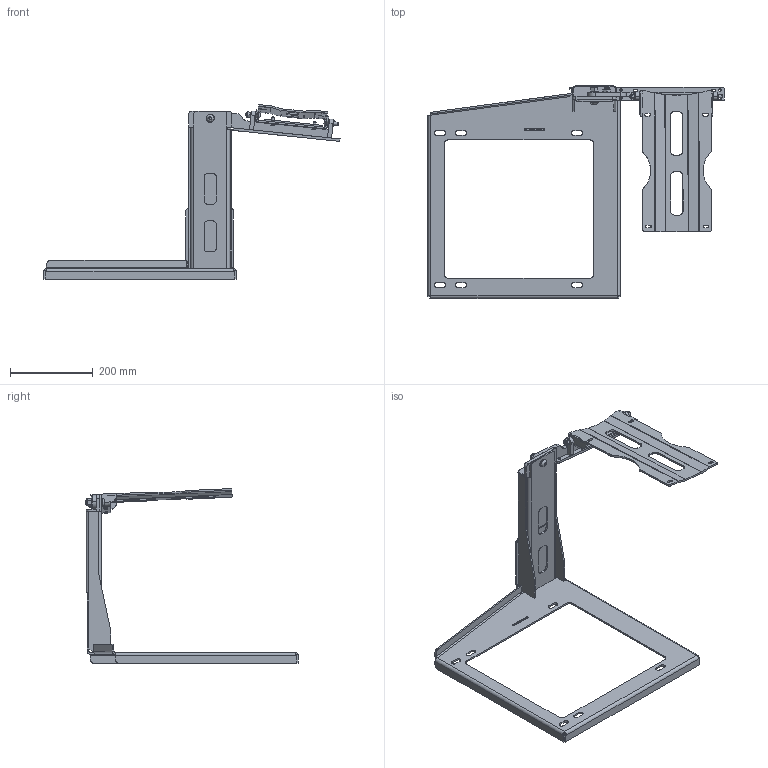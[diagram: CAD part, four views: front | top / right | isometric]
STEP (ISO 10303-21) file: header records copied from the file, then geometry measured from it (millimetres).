
FILE_DESCRIPTION(('STEP AP214'),'1');
FILE_NAME('81TAB279020A_TABLETTE GAUCHE RANG 4.stp','2026-02-04T09:59:18',(' '),(' '),'Spatial InterOp 3D',' ',' ');
FILE_SCHEMA(('AUTOMOTIVE_DESIGN { 1 0 10303 214 1 1 1 1 }'));
Length unit declared in the file: millimetre
Products named in the file (30): 81TAB001051A_PIVOT ACCOUDOIRE GCHE; 81TAB001204A_PIVOT TABLETTE; 81TAB001203B_CORPS; 81TAB001202A_PLAQUE SUPPERIEURE; 81TAB001050A_ACCOUDOIRE TABLETTE GCHE; 81TAB279020A_TABLETTE GAUCHE RANG 4; 81TAB279021A_CHASSIS TAB GCHE rang 4; 81TAB001015A_BUTEE; 81TAB001014B_RENFORT D'AXE; 81TAB279201C_BASE CHASSIS TAB.GCHE RANG 4; 81TAB279203D_MONTANT INTERIEUR TAB. G rang 4; 81TAB279202C_MONTANT EXTERIEUR TAB. G rang 4; Rondelle Plate Inox; Vis BHC Acier ISO7380; Ecrou H Autofreiné Acier  ISO 7040; Vis Poussoir à Bille Orientable Sans Tête Avec Fente NORELEM 03000-212; Ecrou Hm Acier Zingué ISO 4035; 81TAB001033A_OSS. TABLETTE RABATTABLE; 81TAB001303C_CORPS OSSATURE; 81TAB001304B_ARTICULATION OSSATURE; 81TAB001060A_TABLETTE RABATTABLE GAUCHE; 81TAB001032A_BUTEE; Ecrou Noyé Tef FHO Inox; 81TAB001302C_TOLE BUTEE; Vis H Embase Acier Zingué ISO 4161
Assembly tree (37 placements, depth 4):
  81TAB279020A_TABLETTE GAUCHE RANG 4
    81TAB001050A_ACCOUDOIRE TABLETTE GCHE
      81TAB001051A_PIVOT ACCOUDOIRE GCHE
        81TAB001204A_PIVOT TABLETTE  x2
        81TAB001203B_CORPS
        81TAB001202A_PLAQUE SUPPERIEURE
    81TAB279021A_CHASSIS TAB GCHE rang 4
      81TAB001015A_BUTEE
      81TAB279201C_BASE CHASSIS TAB.GCHE RANG 4
      81TAB279203D_MONTANT INTERIEUR TAB. G rang 4
      81TAB279202C_MONTANT EXTERIEUR TAB. G rang 4
    Rondelle Plate Inox  x2
    Vis BHC Acier ISO7380
    Ecrou H Autofreiné Acier  ISO 7040
    Rondelle Plate Inox  x5
    Vis BHC Acier ISO7380  x2
    Ecrou H Autofreiné Acier  ISO 7040
    Vis Poussoir à Bille Orientable Sans Tête Avec Fente NORELEM 03000-212
      Vis Poussoir à Bille Orientable Sans Tête Avec Fente NORELEM 03000-212
      Vis Poussoir à Bille Orientable Sans Tête Avec Fente NORELEM 03000-212
    Ecrou Hm Acier Zingué ISO 4035
    81TAB001060A_TABLETTE RABATTABLE GAUCHE
      81TAB001033A_OSS. TABLETTE RABATTABLE
        81TAB001303C_CORPS OSSATURE
        81TAB001304B_ARTICULATION OSSATURE
      81TAB001032A_BUTEE
        Ecrou Noyé Tef FHO Inox  x2
        81TAB001302C_TOLE BUTEE
      Vis H Embase Acier Zingué ISO 4161  x2
  81TAB001014B_RENFORT D'AXE
Bounding box: 714.06 x 513 x 421.34 mm (x, y, z)
Volume: 1392912.7 mm3; surface area: 712970.5 mm2
Topology: 31 solids, 31 shells, 912 faces, 2541 edges, 1732 vertices
Faces by surface type: plane 593, cylinder 197, cone 62, bspline 41, torus 18, sphere 1
Full cylindrical faces by diameter (mm): 4.2 x2, 5 x2, 5.5 x4, 6 x4, 6.8 x1, 7 x2, 8 x2, 8.2 x4, 8.5 x1, 8.6 x5, 8.9 x2, 10 x3, 10.2 x3, 10.8 x2, 11 x1, 11.2 x2, 12 x1, 13 x1, 16 x6, 20 x2
Entity records: 37571 total; most frequent: CARTESIAN_POINT 7361, ORIENTED_EDGE 4402, DIRECTION 3992, EDGE_CURVE 2201, VERTEX_POINT 1557, LINE 1466, VECTOR 1466, AXIS2_PLACEMENT_3D 1263
